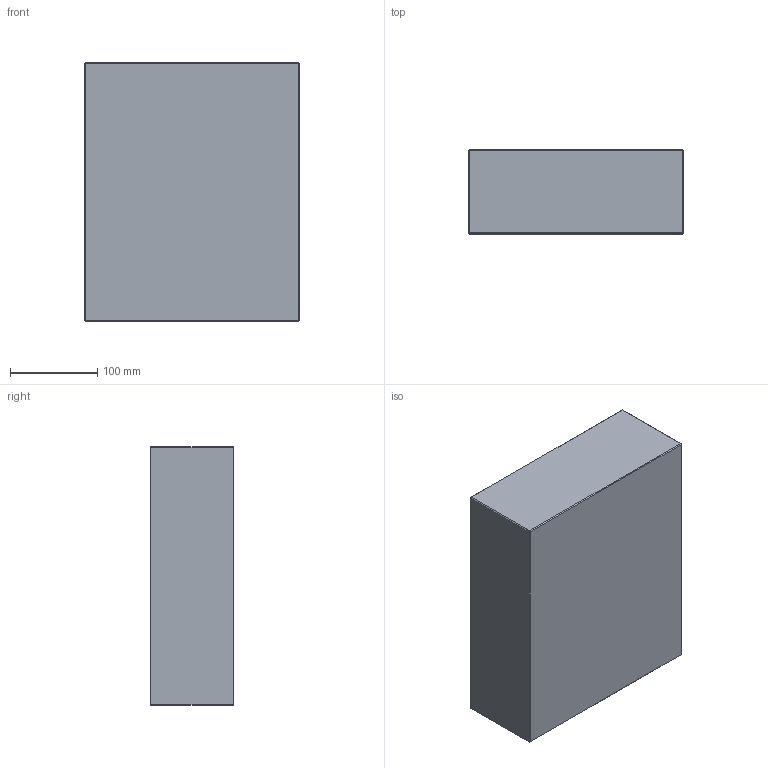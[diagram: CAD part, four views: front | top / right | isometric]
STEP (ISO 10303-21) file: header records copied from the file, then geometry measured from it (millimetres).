
FILE_DESCRIPTION (( 'STEP AP214' ), '1' );
FILE_NAME ('PC-P-246x296x96.STEP', '2020-04-01T08:33:59', ( 'August' ), ( '' ), 'SwSTEP 2.0', 'SolidWorks 2018', '' );
FILE_SCHEMA (( 'AUTOMOTIVE_DESIGN' ));
Length unit declared in the file: millimetre
Products named in the file (1): PC-P-246x296x96
Bounding box: 246 x 96 x 296 mm (x, y, z)
Volume: 6989065.3 mm3; surface area: 248198.1 mm2
Topology: 1 solids, 1 shells, 26 faces, 48 edges, 24 vertices
Faces by surface type: plane 26
Entity records: 634 total; most frequent: DIRECTION 102, CARTESIAN_POINT 99, ORIENTED_EDGE 96, EDGE_CURVE 48, VECTOR 48, LINE 48, AXIS2_PLACEMENT_3D 27, PLANE 26
